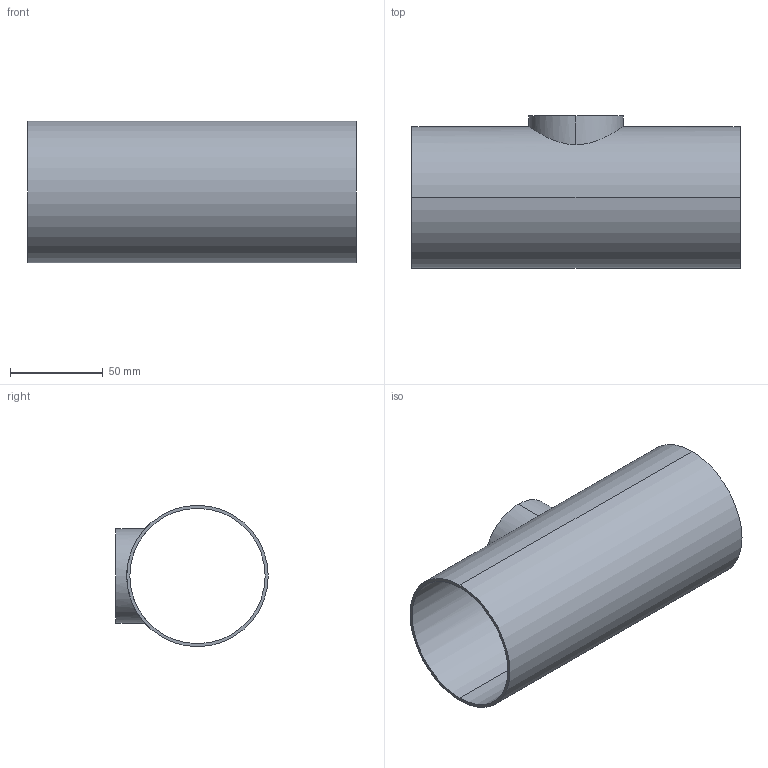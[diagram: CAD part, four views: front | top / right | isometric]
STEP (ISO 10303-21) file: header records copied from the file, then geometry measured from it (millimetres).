
FILE_DESCRIPTION (( 'STEP AP214' ), '1' );
FILE_NAME ('TEG7RS6L3.0x2.0-...STEP', '2016-05-24T10:53:25', ( 'eran' ), ( '' ), 'SwSTEP 2.0', 'SolidWorks 2016', '' );
FILE_SCHEMA (( 'AUTOMOTIVE_DESIGN' ));
Length unit declared in the file: millimetre
Products named in the file (1): TEG7RS6L3.0x2.0-..
Bounding box: 176.8 x 82.1 x 76.2 mm (x, y, z)
Volume: 67831.6 mm3; surface area: 83240.9 mm2
Topology: 1 solids, 1 shells, 11 faces, 24 edges, 16 vertices
Faces by surface type: cylinder 8, plane 3
Entity records: 592 total; most frequent: CARTESIAN_POINT 300, DIRECTION 56, ORIENTED_EDGE 48, EDGE_CURVE 24, AXIS2_PLACEMENT_3D 24, EDGE_LOOP 16, VERTEX_POINT 16, CIRCLE 12
